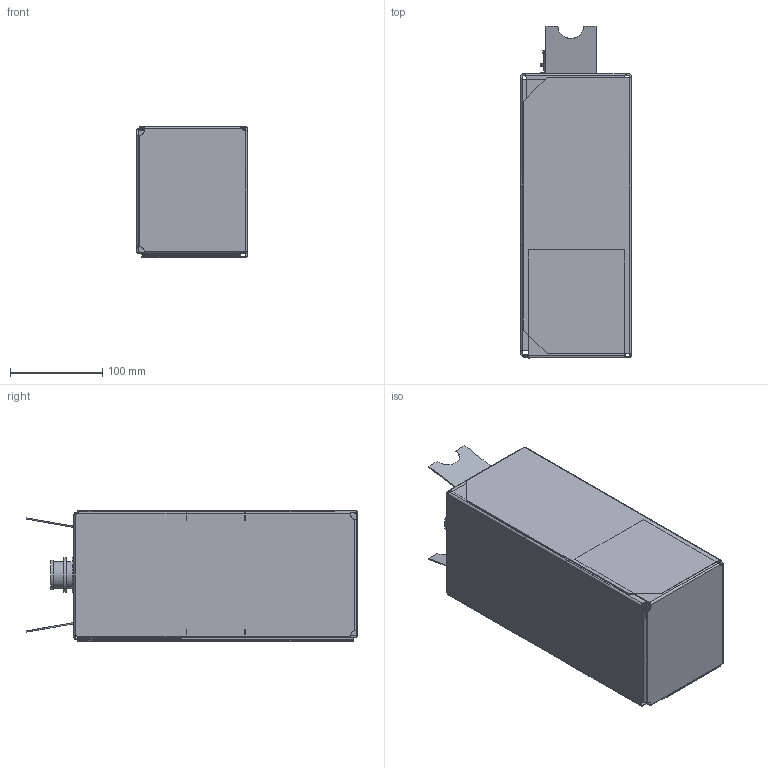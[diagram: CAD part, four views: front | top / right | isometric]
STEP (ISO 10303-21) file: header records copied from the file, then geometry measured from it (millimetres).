
FILE_DESCRIPTION (( 'STEP AP203' ), '1' );
FILE_NAME ('111066-01.STEP', '2025-11-13T15:06:16', ( '' ), ( '' ), 'SwSTEP 2.0', 'SolidWorks 2025', '' );
FILE_SCHEMA (( 'CONFIG_CONTROL_DESIGN' ));
Length unit declared in the file: inch
Products named in the file (1): 111066-01
Bounding box: 119.33 x 358.98 x 141.56 mm (x, y, z)
Volume: 433413.9 mm3; surface area: 642946 mm2
Topology: 5 solids, 5 shells, 394 faces, 1044 edges, 664 vertices
Faces by surface type: plane 293, cylinder 53, bspline 48
Entity records: 12967 total; most frequent: CARTESIAN_POINT 3567, ORIENTED_EDGE 2088, DIRECTION 1638, EDGE_CURVE 1044, LINE 832, VECTOR 832, VERTEX_POINT 664, EDGE_LOOP 404
